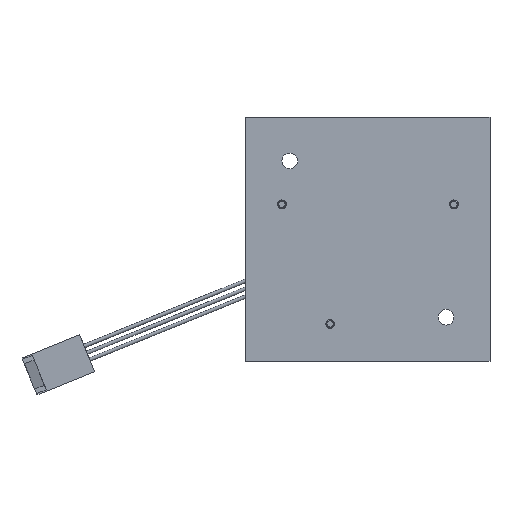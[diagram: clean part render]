
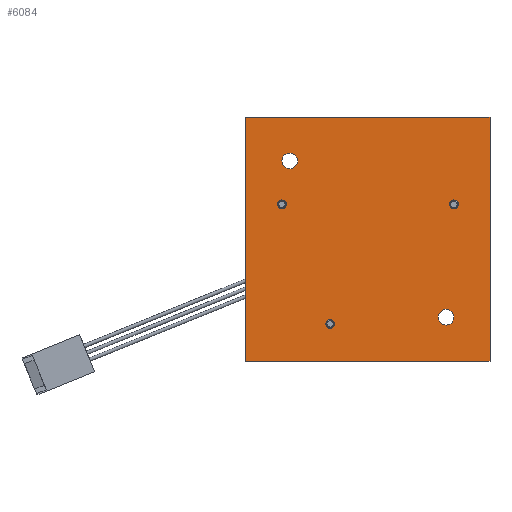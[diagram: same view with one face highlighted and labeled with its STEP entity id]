
A CAD part, front view. The second image highlights one B-rep face of the part: STEP entity #6084.
In plain terms, the highlighted planar face has unit normal (0, -1, 0).
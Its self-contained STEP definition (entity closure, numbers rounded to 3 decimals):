
#16 = VECTOR ( 'NONE', #7870, 1000. ) ;
#105 = AXIS2_PLACEMENT_3D ( 'NONE', #54018, #33909, #34212 ) ;
#276 = CARTESIAN_POINT ( 'NONE',  ( 16.001, 0.5, -14.401 ) ) ;
#987 = CIRCLE ( 'NONE', #9086, 0.9 ) ;
#1071 = EDGE_CURVE ( 'NONE', #18423, #37407, #6691, .T. ) ;
#1076 = CIRCLE ( 'NONE', #36663, 1.6 ) ;
#1191 = EDGE_LOOP ( 'NONE', ( #39647, #8110 ) ) ;
#1737 = DIRECTION ( 'NONE',  ( 0., 0., -1. ) ) ;
#3086 = CARTESIAN_POINT ( 'NONE',  ( 17.616, 0.5, 8.018 ) ) ;
#3975 = CARTESIAN_POINT ( 'NONE',  ( 25., 0.5, -25. ) ) ;
#4388 = CARTESIAN_POINT ( 'NONE',  ( 16.001, 0.5, -16.001 ) ) ;
#5176 = CIRCLE ( 'NONE', #105, 0.9 ) ;
#5326 = DIRECTION ( 'NONE',  ( 0., -1., 0. ) ) ;
#5750 = CARTESIAN_POINT ( 'NONE',  ( -7.728, 0.5, -18.257 ) ) ;
#6084 = ADVANCED_FACE ( 'NONE', ( #7748, #50480, #17020, #37075, #45356, #30743 ), #55921, .T. ) ;
#6249 = EDGE_CURVE ( 'NONE', #43583, #15486, #34767, .T. ) ;
#6691 = CIRCLE ( 'NONE', #31003, 1.6 ) ;
#6694 = CARTESIAN_POINT ( 'NONE',  ( -25., 0.5, -25. ) ) ;
#7576 = EDGE_CURVE ( 'NONE', #54310, #9257, #15499, .T. ) ;
#7748 = FACE_BOUND ( 'NONE', #39979, .T. ) ;
#7870 = DIRECTION ( 'NONE',  ( 1., 0., 0. ) ) ;
#7887 = VERTEX_POINT ( 'NONE', #3086 ) ;
#7958 = CARTESIAN_POINT ( 'NONE',  ( 25., 0.5, 25. ) ) ;
#8110 = ORIENTED_EDGE ( 'NONE', *, *, #32114, .T. ) ;
#9086 = AXIS2_PLACEMENT_3D ( 'NONE', #21465, #45360, #1737 ) ;
#9257 = VERTEX_POINT ( 'NONE', #45741 ) ;
#9891 = CARTESIAN_POINT ( 'NONE',  ( 16.001, 0.5, -17.601 ) ) ;
#10338 = VERTEX_POINT ( 'NONE', #30240 ) ;
#10587 = VECTOR ( 'NONE', #22730, 1000. ) ;
#10839 = AXIS2_PLACEMENT_3D ( 'NONE', #42256, #23764, #28255 ) ;
#10955 = ORIENTED_EDGE ( 'NONE', *, *, #38181, .T. ) ;
#11416 = AXIS2_PLACEMENT_3D ( 'NONE', #35347, #41030, #60519 ) ;
#12210 = CARTESIAN_POINT ( 'NONE',  ( 0., 0.5, 0. ) ) ;
#12573 = DIRECTION ( 'NONE',  ( 0., 0., -1. ) ) ;
#15486 = VERTEX_POINT ( 'NONE', #9891 ) ;
#15499 = CIRCLE ( 'NONE', #11416, 0.9 ) ;
#16923 = LINE ( 'NONE', #7958, #50134 ) ;
#16988 = CIRCLE ( 'NONE', #51623, 1.6 ) ;
#17020 = FACE_BOUND ( 'NONE', #20539, .T. ) ;
#17237 = DIRECTION ( 'NONE',  ( 0., 1., 0. ) ) ;
#18423 = VERTEX_POINT ( 'NONE', #31214 ) ;
#18595 = CARTESIAN_POINT ( 'NONE',  ( -16.002, 0.5, 16.002 ) ) ;
#18750 = DIRECTION ( 'NONE',  ( 0., 0., -1. ) ) ;
#19104 = VERTEX_POINT ( 'NONE', #19562 ) ;
#19498 = CARTESIAN_POINT ( 'NONE',  ( 25., 0.5, 25. ) ) ;
#19562 = CARTESIAN_POINT ( 'NONE',  ( -17.616, 0.5, 8.018 ) ) ;
#19752 = EDGE_CURVE ( 'NONE', #10338, #7887, #23230, .T. ) ;
#20539 = EDGE_LOOP ( 'NONE', ( #27980, #36797 ) ) ;
#20549 = AXIS2_PLACEMENT_3D ( 'NONE', #24279, #49783, #54599 ) ;
#21268 = ORIENTED_EDGE ( 'NONE', *, *, #22105, .F. ) ;
#21465 = CARTESIAN_POINT ( 'NONE',  ( 17.616, 0.5, 7.118 ) ) ;
#22046 = ORIENTED_EDGE ( 'NONE', *, *, #26318, .T. ) ;
#22105 = EDGE_CURVE ( 'NONE', #15486, #43583, #1076, .T. ) ;
#22730 = DIRECTION ( 'NONE',  ( 0., 0., 1. ) ) ;
#23107 = ORIENTED_EDGE ( 'NONE', *, *, #59613, .T. ) ;
#23230 = CIRCLE ( 'NONE', #45639, 0.9 ) ;
#23340 = EDGE_CURVE ( 'NONE', #37407, #18423, #16988, .T. ) ;
#23764 = DIRECTION ( 'NONE',  ( 0., 1., 0. ) ) ;
#24279 = CARTESIAN_POINT ( 'NONE',  ( 16.001, 0.5, -16.001 ) ) ;
#26318 = EDGE_CURVE ( 'NONE', #7887, #10338, #987, .T. ) ;
#26447 = CARTESIAN_POINT ( 'NONE',  ( -16.002, 0.5, 14.402 ) ) ;
#26646 = VECTOR ( 'NONE', #12573, 1000. ) ;
#27399 = DIRECTION ( 'NONE',  ( -1., 0., 0. ) ) ;
#27580 = CARTESIAN_POINT ( 'NONE',  ( 25., 0.5, -25. ) ) ;
#27690 = DIRECTION ( 'NONE',  ( 0., -1., 0. ) ) ;
#27828 = VERTEX_POINT ( 'NONE', #19498 ) ;
#27980 = ORIENTED_EDGE ( 'NONE', *, *, #42735, .T. ) ;
#28255 = DIRECTION ( 'NONE',  ( 0., 0., -1. ) ) ;
#28734 = VERTEX_POINT ( 'NONE', #44080 ) ;
#29386 = EDGE_CURVE ( 'NONE', #19104, #28734, #29503, .T. ) ;
#29503 = CIRCLE ( 'NONE', #60012, 0.9 ) ;
#30240 = CARTESIAN_POINT ( 'NONE',  ( 17.616, 0.5, 6.218 ) ) ;
#30743 = FACE_OUTER_BOUND ( 'NONE', #42336, .T. ) ;
#31003 = AXIS2_PLACEMENT_3D ( 'NONE', #41663, #27690, #41032 ) ;
#31214 = CARTESIAN_POINT ( 'NONE',  ( -16.002, 0.5, 17.602 ) ) ;
#31679 = DIRECTION ( 'NONE',  ( 0., -1., 0. ) ) ;
#31992 = DIRECTION ( 'NONE',  ( 0., 0., -1. ) ) ;
#32114 = EDGE_CURVE ( 'NONE', #9257, #54310, #5176, .T. ) ;
#32389 = CARTESIAN_POINT ( 'NONE',  ( -25., 0.5, 25. ) ) ;
#33909 = DIRECTION ( 'NONE',  ( 0., 1., 0. ) ) ;
#34212 = DIRECTION ( 'NONE',  ( 0., 0., -1. ) ) ;
#34767 = CIRCLE ( 'NONE', #20549, 1.6 ) ;
#35347 = CARTESIAN_POINT ( 'NONE',  ( -7.728, 0.5, -17.357 ) ) ;
#36641 = DIRECTION ( 'NONE',  ( 0., 0., -1. ) ) ;
#36663 = AXIS2_PLACEMENT_3D ( 'NONE', #4388, #5326, #18750 ) ;
#36797 = ORIENTED_EDGE ( 'NONE', *, *, #29386, .T. ) ;
#36939 = ORIENTED_EDGE ( 'NONE', *, *, #19752, .T. ) ;
#37075 = FACE_BOUND ( 'NONE', #49156, .T. ) ;
#37335 = AXIS2_PLACEMENT_3D ( 'NONE', #12210, #31679, #31992 ) ;
#37407 = VERTEX_POINT ( 'NONE', #26447 ) ;
#37996 = DIRECTION ( 'NONE',  ( 0., -1., 0. ) ) ;
#38181 = EDGE_CURVE ( 'NONE', #49348, #49034, #47028, .T. ) ;
#38313 = CIRCLE ( 'NONE', #10839, 0.9 ) ;
#38799 = EDGE_CURVE ( 'NONE', #27828, #49348, #16923, .T. ) ;
#39546 = ORIENTED_EDGE ( 'NONE', *, *, #1071, .F. ) ;
#39647 = ORIENTED_EDGE ( 'NONE', *, *, #7576, .T. ) ;
#39979 = EDGE_LOOP ( 'NONE', ( #52593, #21268 ) ) ;
#41030 = DIRECTION ( 'NONE',  ( 0., 1., 0. ) ) ;
#41032 = DIRECTION ( 'NONE',  ( 0., 0., -1. ) ) ;
#41663 = CARTESIAN_POINT ( 'NONE',  ( -16.002, 0.5, 16.002 ) ) ;
#41784 = CARTESIAN_POINT ( 'NONE',  ( -17.616, 0.5, 7.118 ) ) ;
#42040 = CARTESIAN_POINT ( 'NONE',  ( 17.616, 0.5, 7.118 ) ) ;
#42256 = CARTESIAN_POINT ( 'NONE',  ( -17.616, 0.5, 7.118 ) ) ;
#42336 = EDGE_LOOP ( 'NONE', ( #23107, #54078, #10955, #58755 ) ) ;
#42735 = EDGE_CURVE ( 'NONE', #28734, #19104, #38313, .T. ) ;
#43372 = EDGE_CURVE ( 'NONE', #49034, #60773, #51889, .T. ) ;
#43583 = VERTEX_POINT ( 'NONE', #276 ) ;
#44080 = CARTESIAN_POINT ( 'NONE',  ( -17.616, 0.5, 6.218 ) ) ;
#45356 = FACE_BOUND ( 'NONE', #1191, .T. ) ;
#45360 = DIRECTION ( 'NONE',  ( 0., 1., 0. ) ) ;
#45639 = AXIS2_PLACEMENT_3D ( 'NONE', #42040, #17237, #36641 ) ;
#45741 = CARTESIAN_POINT ( 'NONE',  ( -7.728, 0.5, -16.457 ) ) ;
#46951 = DIRECTION ( 'NONE',  ( 0., 1., 0. ) ) ;
#47028 = LINE ( 'NONE', #56271, #26646 ) ;
#47648 = LINE ( 'NONE', #3975, #10587 ) ;
#49034 = VERTEX_POINT ( 'NONE', #6694 ) ;
#49156 = EDGE_LOOP ( 'NONE', ( #36939, #22046 ) ) ;
#49348 = VERTEX_POINT ( 'NONE', #32389 ) ;
#49783 = DIRECTION ( 'NONE',  ( 0., -1., 0. ) ) ;
#50134 = VECTOR ( 'NONE', #27399, 1000. ) ;
#50480 = FACE_BOUND ( 'NONE', #52084, .T. ) ;
#51405 = DIRECTION ( 'NONE',  ( 0., 0., -1. ) ) ;
#51623 = AXIS2_PLACEMENT_3D ( 'NONE', #18595, #37996, #52704 ) ;
#51889 = LINE ( 'NONE', #56364, #16 ) ;
#52084 = EDGE_LOOP ( 'NONE', ( #39546, #52899 ) ) ;
#52593 = ORIENTED_EDGE ( 'NONE', *, *, #6249, .F. ) ;
#52704 = DIRECTION ( 'NONE',  ( 0., 0., -1. ) ) ;
#52899 = ORIENTED_EDGE ( 'NONE', *, *, #23340, .F. ) ;
#54018 = CARTESIAN_POINT ( 'NONE',  ( -7.728, 0.5, -17.357 ) ) ;
#54078 = ORIENTED_EDGE ( 'NONE', *, *, #38799, .T. ) ;
#54310 = VERTEX_POINT ( 'NONE', #5750 ) ;
#54599 = DIRECTION ( 'NONE',  ( 0., 0., -1. ) ) ;
#55921 = PLANE ( 'NONE',  #37335 ) ;
#56271 = CARTESIAN_POINT ( 'NONE',  ( -25., 0.5, -25. ) ) ;
#56364 = CARTESIAN_POINT ( 'NONE',  ( 25., 0.5, -25. ) ) ;
#58755 = ORIENTED_EDGE ( 'NONE', *, *, #43372, .T. ) ;
#59613 = EDGE_CURVE ( 'NONE', #60773, #27828, #47648, .T. ) ;
#60012 = AXIS2_PLACEMENT_3D ( 'NONE', #41784, #46951, #51405 ) ;
#60519 = DIRECTION ( 'NONE',  ( 0., 0., -1. ) ) ;
#60773 = VERTEX_POINT ( 'NONE', #27580 ) ;
